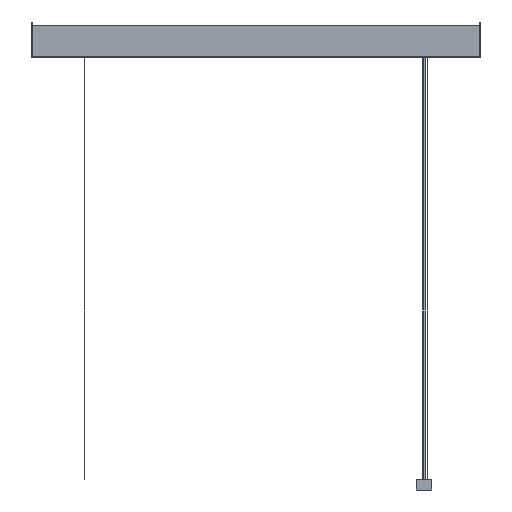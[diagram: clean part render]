
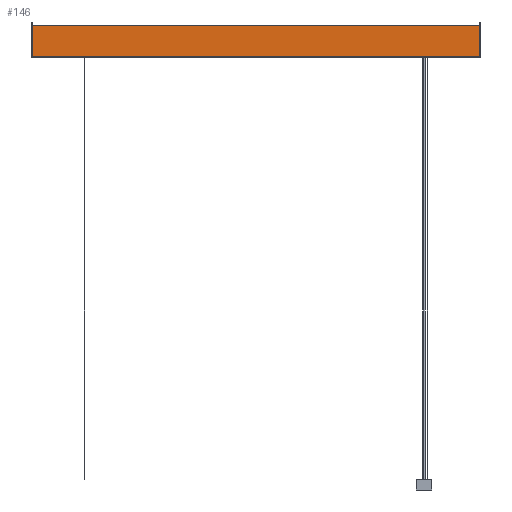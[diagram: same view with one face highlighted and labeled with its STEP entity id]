
A CAD part, front view. The second image highlights one B-rep face of the part: STEP entity #146.
In plain terms, the highlighted planar face has unit normal (0, -1, 0).
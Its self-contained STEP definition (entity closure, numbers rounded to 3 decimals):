
#146 = ADVANCED_FACE ( 'NONE', ( #2422 ), #3052, .F. ) ;
#186 = VERTEX_POINT ( 'NONE', #932 ) ;
#189 = VERTEX_POINT ( 'NONE', #918 ) ;
#199 = VERTEX_POINT ( 'NONE', #891 ) ;
#253 = VERTEX_POINT ( 'NONE', #752 ) ;
#339 = ORIENTED_EDGE ( 'NONE', *, *, #2906, .F. ) ;
#340 = ORIENTED_EDGE ( 'NONE', *, *, #2905, .T. ) ;
#341 = ORIENTED_EDGE ( 'NONE', *, *, #2904, .T. ) ;
#342 = ORIENTED_EDGE ( 'NONE', *, *, #2902, .F. ) ;
#752 = CARTESIAN_POINT ( 'NONE',  ( -296.7, -34.5, 71.5 ) ) ;
#891 = CARTESIAN_POINT ( 'NONE',  ( -296.7, -34.5, -30. ) ) ;
#918 = CARTESIAN_POINT ( 'NONE',  ( 1136.7, -34.5, 71.5 ) ) ;
#932 = CARTESIAN_POINT ( 'NONE',  ( 1136.7, -34.5, -30. ) ) ;
#1180 = AXIS2_PLACEMENT_3D ( 'NONE', #3040, #3035, #3032 ) ;
#1410 = EDGE_LOOP ( 'NONE', ( #342, #341, #340, #339 ) ) ;
#1917 = LINE ( 'NONE', #2713, #1923 ) ;
#1919 = LINE ( 'NONE', #2706, #1929 ) ;
#1923 = VECTOR ( 'NONE', #2702, 1000. ) ;
#1924 = LINE ( 'NONE', #2696, #1927 ) ;
#1927 = VECTOR ( 'NONE', #2693, 1000. ) ;
#1928 = LINE ( 'NONE', #2688, #1931 ) ;
#1929 = VECTOR ( 'NONE', #2692, 1000. ) ;
#1931 = VECTOR ( 'NONE', #2687, 1000. ) ;
#2422 = FACE_OUTER_BOUND ( 'NONE', #1410, .T. ) ;
#2687 = DIRECTION ( 'NONE',  ( 0., 0., -1. ) ) ;
#2688 = CARTESIAN_POINT ( 'NONE',  ( 1136.7, -34.5, -28.5 ) ) ;
#2692 = DIRECTION ( 'NONE',  ( 1., 0., 0. ) ) ;
#2693 = DIRECTION ( 'NONE',  ( 0., 0., -1. ) ) ;
#2696 = CARTESIAN_POINT ( 'NONE',  ( -296.7, -34.5, -28.5 ) ) ;
#2702 = DIRECTION ( 'NONE',  ( 1., 0., 0. ) ) ;
#2706 = CARTESIAN_POINT ( 'NONE',  ( -296.7, -34.5, -30. ) ) ;
#2713 = CARTESIAN_POINT ( 'NONE',  ( -296.7, -34.5, 71.5 ) ) ;
#2902 = EDGE_CURVE ( 'NONE', #253, #189, #1917, .T. ) ;
#2904 = EDGE_CURVE ( 'NONE', #253, #199, #1924, .T. ) ;
#2905 = EDGE_CURVE ( 'NONE', #199, #186, #1919, .T. ) ;
#2906 = EDGE_CURVE ( 'NONE', #189, #186, #1928, .T. ) ;
#3032 = DIRECTION ( 'NONE',  ( 0., 0., -1. ) ) ;
#3035 = DIRECTION ( 'NONE',  ( 0., 1., 0. ) ) ;
#3040 = CARTESIAN_POINT ( 'NONE',  ( -296.7, -34.5, -28.5 ) ) ;
#3052 = PLANE ( 'NONE',  #1180 ) ;
